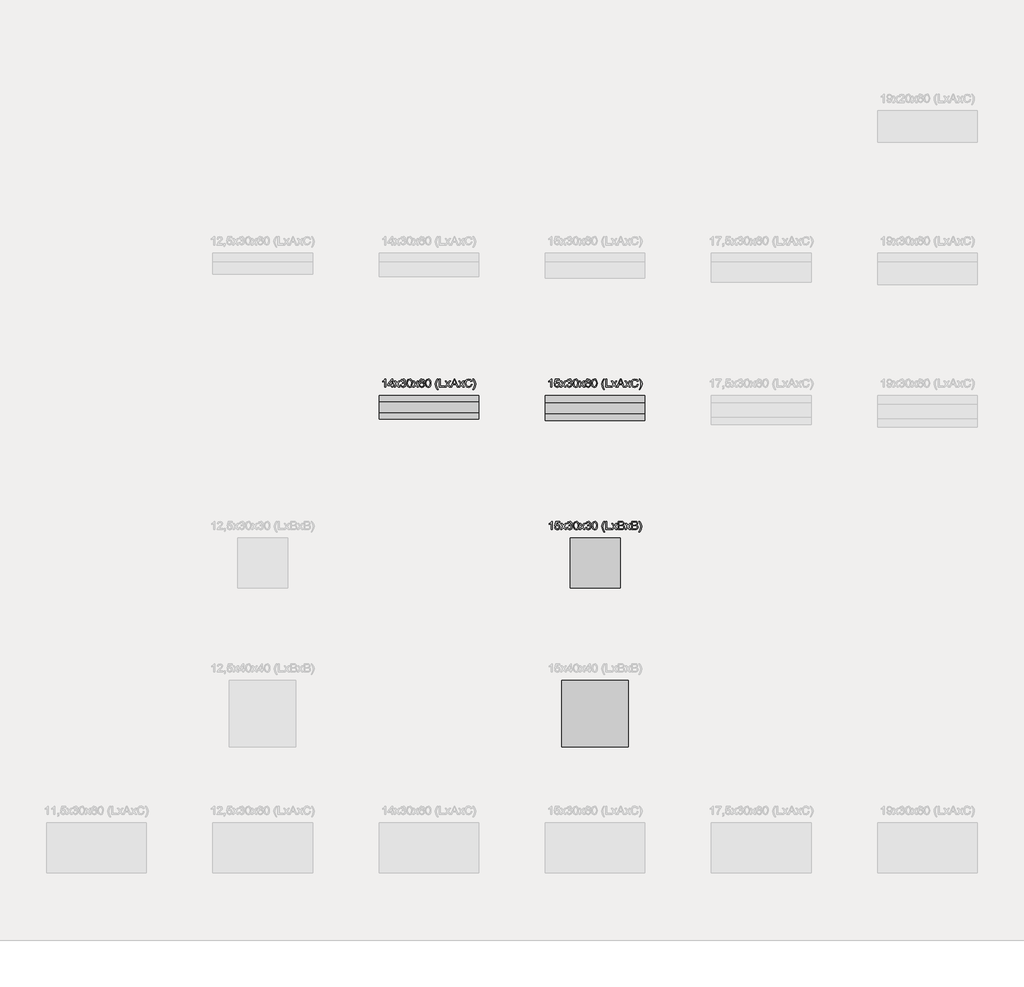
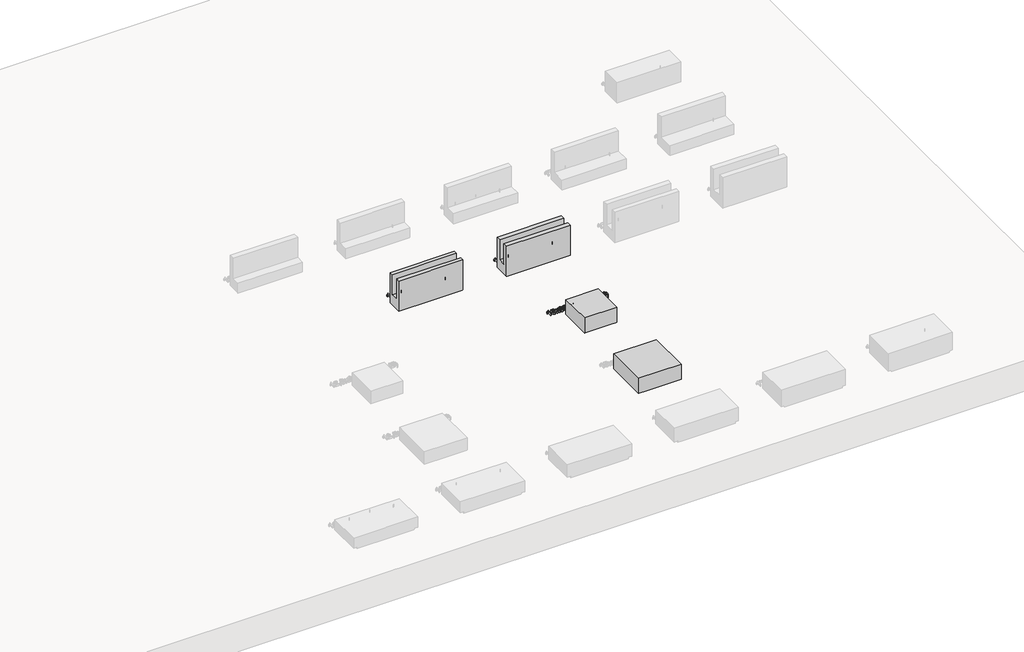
# One storey, part 8 of 26: 7 proxies.
"""IFC4 building model written with IfcOpenShell, lengths in millimetres."""

from ifc_helpers import new_model, si_unit, origin, origin_with_axes, place, context, project, spatial, polyline, outline, extrude, transform, mapped, element, save
from components import generic_models_478de73a, generic_models_cd5d417e, generic_models_a6b36ca9, generic_models_7f6e2def

model = new_model("IFC4")

# Units and contexts
model_context = context("Model", 3, world=origin())
ifc_project = project(units=[si_unit("LENGTHUNIT", "METRE", prefix="MILLI")], contexts=[model_context])

# Site, building, storey
site = spatial("IfcSite", under=ifc_project)
building = spatial("IfcBuilding", under=site)
storey = spatial("IfcBuildingStorey", under=building, Name="Catálogo Celucon", Elevation=0.0)

# Proxies
placement = place(None, origin())
element("IfcBuildingElementProxy", 1, Name="Dimensões", ObjectType="Dimensões", at=placement, inside=storey, context=model_context, shape_type="SweptSolid", body=[
    extrude(outline(polyline([(-7758.0265226, -2028.2474407), (-7764.305042, -2028.2474407), (-7764.305042, -1989.1047965), (-7770.2524676, -1993.3415708), (-7776.8620808, -1996.5114873), (-7776.8620808, -1990.5763244), (-7767.6588995, -1984.7024752), (-7762.0732246, -1978.0192857), (-7758.0265226, -1978.0192857), (-7758.0265226, -2028.2474407)])), origin_with_axes(), (0.0, 0.0, 1.0), 20.0),
    extrude(outline(polyline([(-7722.7098511, -2028.2474407), (-7722.7098511, -2016.4752169), (-7745.4694838, -2016.4752169), (-7745.4694838, -2010.1966975), (-7721.1402212, -1978.8041006), (-7716.4313317, -1978.8041006), (-7716.4313317, -2010.1966975), (-7710.1528123, -2010.1966975), (-7710.1528123, -2016.4752169), (-7716.4313317, -2016.4752169), (-7716.4313317, -2028.2474407), (-7722.7098511, -2028.2474407)]), holes=[polyline([(-7722.7098511, -2010.1966975), (-7722.7098511, -1990.7970536), (-7737.7439619, -2010.1966975), (-7722.7098511, -2010.1966975)])]), origin_with_axes(), (0.0, 0.0, 1.0), 20.0),
    extrude(outline(polyline([(-7707.0135526, -2028.2474407), (-7693.5981225, -2009.7061882), (-7706.2287377, -1991.3611394), (-7698.6748941, -1991.3611394), (-7692.5803157, -2000.1903072), (-7689.7353616, -2004.3596365), (-7687.2705522, -2000.9505967), (-7680.3298452, -1991.3611394), (-7672.7760016, -1991.3611394), (-7686.0442789, -2009.7061882), (-7673.2665109, -2028.2474407), (-7680.8203546, -2028.2474407), (-7688.5090883, -2017.1006163), (-7689.9193026, -2015.0650026), (-7699.459709, -2028.2474407), (-7707.0135526, -2028.2474407)])), origin_with_axes(), (0.0, 0.0, 1.0), 20.0),
    extrude(outline(polyline([(-7669.3424363, -2014.905587), (-7663.0639169, -2014.1207721), (-7659.5996948, -2020.7303853), (-7653.1188403, -2022.7537363), (-7645.4914203, -2019.9700958), (-7642.6587289, -2013.0784398), (-7645.4668948, -2006.5853226), (-7652.6038055, -2004.01628), (-7657.0061267, -2004.7029931), (-7656.3071509, -1998.4244737), (-7648.1769589, -1996.6954283), (-7645.0131737, -1991.1526729), (-7647.3063048, -1986.2414483), (-7653.2169422, -1984.2978051), (-7659.201156, -1986.2598424), (-7662.279102, -1992.1459543), (-7668.5576214, -1991.3611394), (-7663.4195362, -1981.5141646), (-7653.4376714, -1978.0192857), (-7645.8654337, -1979.7421997), (-7640.5679329, -1984.4510892), (-7638.7346543, -1990.7847909), (-7640.4759624, -1996.572801), (-7645.6263104, -2000.7298675), (-7638.7837052, -2005.0218241), (-7636.3802095, -2013.1888044), (-7641.1872009, -2024.421468), (-7653.3395695, -2029.0322557), (-7664.3515039, -2025.0959183), (-7669.3424363, -2014.905587)])), origin_with_axes(), (0.0, 0.0, 1.0), 20.0),
    extrude(outline(polyline([(-7630.8865051, -2003.5380334), (-7629.0409637, -1989.0864024), (-7623.559522, -1980.7538752), (-7614.4053917, -1978.0192857), (-7607.0722773, -1979.6379664), (-7602.0077685, -1984.3039364), (-7599.0647125, -1991.7351527), (-7597.9242783, -2003.5380334), (-7599.7514256, -2017.9283508), (-7605.2144732, -2026.2792721), (-7614.4053917, -2029.0322557), (-7625.8833099, -2024.2497897), (-7629.6357063, -2015.7547813), (-7630.8865051, -2003.5380334)]), holes=[polyline([(-7624.6079857, -2003.5257707), (-7621.6649297, -2019.1178359), (-7614.4053917, -2022.7537363), (-7607.1458537, -2019.1055732), (-7604.2027977, -2003.5257707), (-7607.0477518, -1988.1115151), (-7614.4789681, -1984.2978051), (-7621.5668279, -1987.6577939), (-7624.6079857, -2003.5257707)])]), origin_with_axes(), (0.0, 0.0, 1.0), 20.0),
    extrude(outline(polyline([(-7594.7850186, -2028.2474407), (-7581.3695885, -2009.7061882), (-7594.0002037, -1991.3611394), (-7586.4463601, -1991.3611394), (-7580.3517817, -2000.1903072), (-7577.5068276, -2004.3596365), (-7575.0420182, -2000.9505967), (-7568.1013112, -1991.3611394), (-7560.5474676, -1991.3611394), (-7573.8157449, -2009.7061882), (-7561.0379769, -2028.2474407), (-7568.5918206, -2028.2474407), (-7576.2805543, -2017.1006163), (-7577.6907686, -2015.0650026), (-7587.231175, -2028.2474407), (-7594.7850186, -2028.2474407)])), origin_with_axes(), (0.0, 0.0, 1.0), 20.0),
    extrude(outline(polyline([(-7524.9364905, -1991.3611394), (-7531.2150099, -1992.1459543), (-7533.5939801, -1986.9097672), (-7539.8847622, -1984.2978051), (-7545.5501449, -1985.818384), (-7549.8359702, -1991.5266863), (-7551.6201979, -2002.7164303), (-7546.0835738, -1997.7071038), (-7539.2225746, -1996.0700289), (-7528.5539968, -2000.5459265), (-7524.1516755, -2012.1096839), (-7526.2240775, -2020.7733049), (-7531.9262484, -2026.9046715), (-7540.1545423, -2029.0322557), (-7552.9507044, -2023.3913984), (-7556.661714, -2015.9233939), (-7557.8987172, -2004.8010949), (-7556.5252911, -1992.2961728), (-7552.4050128, -1983.7459821), (-7546.7794839, -1979.4509598), (-7539.4923547, -1978.0192857), (-7529.5718036, -1981.5632156), (-7524.9364905, -1991.3611394)]), holes=[polyline([(-7551.6201979, -2012.011582), (-7550.167064, -2017.4501042), (-7546.304303, -2021.3987043), (-7540.6450517, -2022.7537363), (-7533.2444922, -2019.9455704), (-7530.4301949, -2012.3181504), (-7533.207704, -2005.0156927), (-7540.9025691, -2002.3485483), (-7548.4993323, -2005.0156927), (-7551.6201979, -2012.011582)])]), origin_with_axes(), (0.0, 0.0, 1.0), 20.0),
    extrude(outline(polyline([(-7518.6579711, -2003.5380334), (-7516.8124297, -1989.0864024), (-7511.330988, -1980.7538752), (-7502.1768577, -1978.0192857), (-7494.8437433, -1979.6379664), (-7489.7792345, -1984.3039364), (-7486.8361785, -1991.7351527), (-7485.6957443, -2003.5380334), (-7487.5228916, -2017.9283508), (-7492.9859392, -2026.2792721), (-7502.1768577, -2029.0322557), (-7513.654776, -2024.2497897), (-7517.4071723, -2015.7547813), (-7518.6579711, -2003.5380334)]), holes=[polyline([(-7512.3794517, -2003.5257707), (-7509.4363957, -2019.1178359), (-7502.1768577, -2022.7537363), (-7494.9173197, -2019.1055732), (-7491.9742637, -2003.5257707), (-7494.8192178, -1988.1115151), (-7502.2504341, -1984.2978051), (-7509.3382939, -1987.6577939), (-7512.3794517, -2003.5257707)])]), origin_with_axes(), (0.0, 0.0, 1.0), 20.0),
    extrude(outline(polyline([(-7446.4549982, -2042.3741094), (-7455.3700052, -2027.6465668), (-7459.0120369, -2010.1599093), (-7456.2897102, -1994.8928065), (-7446.4549982, -1978.0192857), (-7441.7461086, -1978.0192857), (-7447.6199578, -1987.9643623), (-7451.151625, -1997.6028705), (-7452.7335176, -2010.1966975), (-7449.9866653, -2026.2915348), (-7441.7461086, -2042.3741094), (-7446.4549982, -2042.3741094)])), origin_with_axes(), (0.0, 0.0, 1.0), 20.0),
    extrude(outline(polyline([(-7434.6827743, -2028.2474407), (-7434.6827743, -1978.0192857), (-7428.4042549, -1978.0192857), (-7428.4042549, -2021.9689214), (-7403.2901774, -2021.9689214), (-7403.2901774, -2028.2474407), (-7434.6827743, -2028.2474407)])), origin_with_axes(), (0.0, 0.0, 1.0), 20.0),
    extrude(outline(polyline([(-7400.9357326, -2028.2474407), (-7387.5203025, -2009.7061882), (-7400.1509177, -1991.3611394), (-7392.5970741, -1991.3611394), (-7386.5024957, -2000.1903072), (-7383.6575416, -2004.3596365), (-7381.1927322, -2000.9505967), (-7374.2520252, -1991.3611394), (-7366.6981816, -1991.3611394), (-7379.9664589, -2009.7061882), (-7367.1886909, -2028.2474407), (-7374.7425346, -2028.2474407), (-7382.4312683, -2017.1006163), (-7383.8414826, -2015.0650026), (-7393.381889, -2028.2474407), (-7400.9357326, -2028.2474407)])), origin_with_axes(), (0.0, 0.0, 1.0), 20.0),
    extrude(outline(polyline([(-7366.7594953, -2028.2474407), (-7346.7099265, -1978.0192857), (-7341.3633749, -1978.0192857), (-7321.3138061, -2028.2474407), (-7327.9479448, -2028.2474407), (-7333.6991666, -2012.5511423), (-7354.3863975, -2012.5511423), (-7360.1253566, -2028.2474407), (-7366.7594953, -2028.2474407)]), holes=[polyline([(-7352.0810037, -2006.2726229), (-7335.9922977, -2006.2726229), (-7340.5172463, -1993.9240506), (-7344.0366507, -1984.2978051), (-7347.1636477, -1992.8449301), (-7352.0810037, -2006.2726229)])]), origin_with_axes(), (0.0, 0.0, 1.0), 20.0),
    extrude(outline(polyline([(-7319.3149806, -2028.2474407), (-7305.8995505, -2009.7061882), (-7318.5301657, -1991.3611394), (-7310.9763221, -1991.3611394), (-7304.8817437, -2000.1903072), (-7302.0367896, -2004.3596365), (-7299.5719802, -2000.9505967), (-7292.6312733, -1991.3611394), (-7285.0774296, -1991.3611394), (-7298.3457069, -2009.7061882), (-7285.5679389, -2028.2474407), (-7293.1217826, -2028.2474407), (-7300.8105163, -2017.1006163), (-7302.2207306, -2015.0650026), (-7311.761137, -2028.2474407), (-7319.3149806, -2028.2474407)])), origin_with_axes(), (0.0, 0.0, 1.0), 20.0),
    extrude(outline(polyline([(-7243.972748, -2010.3929012), (-7237.6942286, -2012.011582), (-7245.1377077, -2024.672854), (-7258.2833576, -2029.0322557), (-7271.3492998, -2025.7335804), (-7279.0135081, -2016.1809113), (-7281.6438643, -2002.7532185), (-7278.6701515, -1989.1047965), (-7270.214997, -1980.2572345), (-7258.1484676, -1977.2344707), (-7245.5730347, -1981.1462826), (-7238.4790436, -1992.158217), (-7244.7575629, -1993.6542705), (-7249.9079109, -1985.9348799), (-7258.3937222, -1983.5129901), (-7268.2161715, -1986.1985287), (-7273.7650583, -1993.4090158), (-7275.3653449, -2002.7409557), (-7273.4707527, -2013.5566864), (-7267.572378, -2020.4667365), (-7258.908757, -2022.7537363), (-7249.3009056, -2019.6390021), (-7243.972748, -2010.3929012)])), origin_with_axes(), (0.0, 0.0, 1.0), 20.0),
    extrude(outline(polyline([(-7228.2764496, -2042.3741094), (-7232.9853391, -2042.3741094), (-7224.7447824, -2026.2915348), (-7221.9979302, -2010.1966975), (-7223.5798228, -1997.7132351), (-7227.0747017, -1988.0624641), (-7232.9853391, -1978.0192857), (-7228.2764496, -1978.0192857), (-7218.4417376, -1994.8928065), (-7215.7194108, -2010.1599093), (-7219.3798366, -2027.6465668), (-7228.2764496, -2042.3741094)])), origin_with_axes(), (0.0, 0.0, 1.0), 20.0),
])
element("IfcBuildingElementProxy", 2, Name="Dimensões", ObjectType="Dimensões", at=placement, inside=storey, context=model_context, shape_type="SweptSolid", body=[
    extrude(outline(polyline([(-6758.0265226, -2028.2474407), (-6764.305042, -2028.2474407), (-6764.305042, -1989.1047965), (-6770.2524676, -1993.3415708), (-6776.8620808, -1996.5114873), (-6776.8620808, -1990.5763244), (-6767.6588995, -1984.7024752), (-6762.0732246, -1978.0192857), (-6758.0265226, -1978.0192857), (-6758.0265226, -2028.2474407)])), origin_with_axes(), (0.0, 0.0, 1.0), 20.0),
    extrude(outline(polyline([(-6743.1150391, -2014.905587), (-6736.8365197, -2014.1207721), (-6733.6727345, -2020.5893639), (-6727.1121723, -2022.7537363), (-6719.2394976, -2019.7432353), (-6716.4313317, -2011.7540646), (-6719.061688, -2004.2983229), (-6727.0140704, -2001.5637334), (-6732.526169, -2002.6551166), (-6736.0517048, -2005.487808), (-6742.3302242, -2004.7029931), (-6736.8365197, -1978.8041006), (-6712.5072571, -1978.8041006), (-6712.5072571, -1985.08262), (-6731.7597482, -1985.08262), (-6734.4452867, -1998.914983), (-6725.2604996, -1995.285214), (-6714.5244767, -1999.785637), (-6710.1528123, -2011.3616572), (-6714.0891497, -2023.0112537), (-6719.7422697, -2027.5270052), (-6727.1366978, -2029.0322557), (-6738.2160772, -2025.1633633), (-6743.1150391, -2014.905587)])), origin_with_axes(), (0.0, 0.0, 1.0), 20.0),
    extrude(outline(polyline([(-6707.0135526, -2028.2474407), (-6693.5981225, -2009.7061882), (-6706.2287377, -1991.3611394), (-6698.6748941, -1991.3611394), (-6692.5803157, -2000.1903072), (-6689.7353616, -2004.3596365), (-6687.2705522, -2000.9505967), (-6680.3298452, -1991.3611394), (-6672.7760016, -1991.3611394), (-6686.0442789, -2009.7061882), (-6673.2665109, -2028.2474407), (-6680.8203546, -2028.2474407), (-6688.5090883, -2017.1006163), (-6689.9193026, -2015.0650026), (-6699.459709, -2028.2474407), (-6707.0135526, -2028.2474407)])), origin_with_axes(), (0.0, 0.0, 1.0), 20.0),
    extrude(outline(polyline([(-6669.3424363, -2014.905587), (-6663.0639169, -2014.1207721), (-6659.5996948, -2020.7303853), (-6653.1188403, -2022.7537363), (-6645.4914203, -2019.9700958), (-6642.6587289, -2013.0784398), (-6645.4668948, -2006.5853226), (-6652.6038055, -2004.01628), (-6657.0061267, -2004.7029931), (-6656.3071509, -1998.4244737), (-6648.1769589, -1996.6954283), (-6645.0131737, -1991.1526729), (-6647.3063048, -1986.2414483), (-6653.2169422, -1984.2978051), (-6659.201156, -1986.2598424), (-6662.279102, -1992.1459543), (-6668.5576214, -1991.3611394), (-6663.4195362, -1981.5141646), (-6653.4376714, -1978.0192857), (-6645.8654337, -1979.7421997), (-6640.5679329, -1984.4510892), (-6638.7346543, -1990.7847909), (-6640.4759624, -1996.572801), (-6645.6263104, -2000.7298675), (-6638.7837052, -2005.0218241), (-6636.3802095, -2013.1888044), (-6641.1872009, -2024.421468), (-6653.3395695, -2029.0322557), (-6664.3515039, -2025.0959183), (-6669.3424363, -2014.905587)])), origin_with_axes(), (0.0, 0.0, 1.0), 20.0),
    extrude(outline(polyline([(-6630.8865051, -2003.5380334), (-6629.0409637, -1989.0864024), (-6623.559522, -1980.7538752), (-6614.4053917, -1978.0192857), (-6607.0722773, -1979.6379664), (-6602.0077685, -1984.3039364), (-6599.0647125, -1991.7351527), (-6597.9242783, -2003.5380334), (-6599.7514256, -2017.9283508), (-6605.2144732, -2026.2792721), (-6614.4053917, -2029.0322557), (-6625.8833099, -2024.2497897), (-6629.6357063, -2015.7547813), (-6630.8865051, -2003.5380334)]), holes=[polyline([(-6624.6079857, -2003.5257707), (-6621.6649297, -2019.1178359), (-6614.4053917, -2022.7537363), (-6607.1458537, -2019.1055732), (-6604.2027977, -2003.5257707), (-6607.0477518, -1988.1115151), (-6614.4789681, -1984.2978051), (-6621.5668279, -1987.6577939), (-6624.6079857, -2003.5257707)])]), origin_with_axes(), (0.0, 0.0, 1.0), 20.0),
    extrude(outline(polyline([(-6594.7850186, -2028.2474407), (-6581.3695885, -2009.7061882), (-6594.0002037, -1991.3611394), (-6586.4463601, -1991.3611394), (-6580.3517817, -2000.1903072), (-6577.5068276, -2004.3596365), (-6575.0420182, -2000.9505967), (-6568.1013112, -1991.3611394), (-6560.5474676, -1991.3611394), (-6573.8157449, -2009.7061882), (-6561.0379769, -2028.2474407), (-6568.5918206, -2028.2474407), (-6576.2805543, -2017.1006163), (-6577.6907686, -2015.0650026), (-6587.231175, -2028.2474407), (-6594.7850186, -2028.2474407)])), origin_with_axes(), (0.0, 0.0, 1.0), 20.0),
    extrude(outline(polyline([(-6524.9364905, -1991.3611394), (-6531.2150099, -1992.1459543), (-6533.5939801, -1986.9097672), (-6539.8847622, -1984.2978051), (-6545.5501449, -1985.818384), (-6549.8359702, -1991.5266863), (-6551.6201979, -2002.7164303), (-6546.0835738, -1997.7071038), (-6539.2225746, -1996.0700289), (-6528.5539968, -2000.5459265), (-6524.1516755, -2012.1096839), (-6526.2240775, -2020.7733049), (-6531.9262484, -2026.9046715), (-6540.1545423, -2029.0322557), (-6552.9507044, -2023.3913984), (-6556.661714, -2015.9233939), (-6557.8987172, -2004.8010949), (-6556.5252911, -1992.2961728), (-6552.4050128, -1983.7459821), (-6546.7794839, -1979.4509598), (-6539.4923547, -1978.0192857), (-6529.5718036, -1981.5632156), (-6524.9364905, -1991.3611394)]), holes=[polyline([(-6551.6201979, -2012.011582), (-6550.167064, -2017.4501042), (-6546.304303, -2021.3987043), (-6540.6450517, -2022.7537363), (-6533.2444922, -2019.9455704), (-6530.4301949, -2012.3181504), (-6533.207704, -2005.0156927), (-6540.9025691, -2002.3485483), (-6548.4993323, -2005.0156927), (-6551.6201979, -2012.011582)])]), origin_with_axes(), (0.0, 0.0, 1.0), 20.0),
    extrude(outline(polyline([(-6518.6579711, -2003.5380334), (-6516.8124297, -1989.0864024), (-6511.330988, -1980.7538752), (-6502.1768577, -1978.0192857), (-6494.8437433, -1979.6379664), (-6489.7792345, -1984.3039364), (-6486.8361785, -1991.7351527), (-6485.6957443, -2003.5380334), (-6487.5228916, -2017.9283508), (-6492.9859392, -2026.2792721), (-6502.1768577, -2029.0322557), (-6513.654776, -2024.2497897), (-6517.4071723, -2015.7547813), (-6518.6579711, -2003.5380334)]), holes=[polyline([(-6512.3794517, -2003.5257707), (-6509.4363957, -2019.1178359), (-6502.1768577, -2022.7537363), (-6494.9173197, -2019.1055732), (-6491.9742637, -2003.5257707), (-6494.8192178, -1988.1115151), (-6502.2504341, -1984.2978051), (-6509.3382939, -1987.6577939), (-6512.3794517, -2003.5257707)])]), origin_with_axes(), (0.0, 0.0, 1.0), 20.0),
    extrude(outline(polyline([(-6446.4549982, -2042.3741094), (-6455.3700052, -2027.6465668), (-6459.0120369, -2010.1599093), (-6456.2897102, -1994.8928065), (-6446.4549982, -1978.0192857), (-6441.7461086, -1978.0192857), (-6447.6199578, -1987.9643623), (-6451.151625, -1997.6028705), (-6452.7335176, -2010.1966975), (-6449.9866653, -2026.2915348), (-6441.7461086, -2042.3741094), (-6446.4549982, -2042.3741094)])), origin_with_axes(), (0.0, 0.0, 1.0), 20.0),
    extrude(outline(polyline([(-6434.6827743, -2028.2474407), (-6434.6827743, -1978.0192857), (-6428.4042549, -1978.0192857), (-6428.4042549, -2021.9689214), (-6403.2901774, -2021.9689214), (-6403.2901774, -2028.2474407), (-6434.6827743, -2028.2474407)])), origin_with_axes(), (0.0, 0.0, 1.0), 20.0),
    extrude(outline(polyline([(-6366.7594953, -2028.2474407), (-6346.7099265, -1978.0192857), (-6341.3633749, -1978.0192857), (-6321.3138061, -2028.2474407), (-6327.9479448, -2028.2474407), (-6333.6991666, -2012.5511423), (-6354.3863975, -2012.5511423), (-6360.1253566, -2028.2474407), (-6366.7594953, -2028.2474407)]), holes=[polyline([(-6352.0810037, -2006.2726229), (-6335.9922977, -2006.2726229), (-6340.5172463, -1993.9240506), (-6344.0366507, -1984.2978051), (-6347.1636477, -1992.8449301), (-6352.0810037, -2006.2726229)])]), origin_with_axes(), (0.0, 0.0, 1.0), 20.0),
    extrude(outline(polyline([(-6400.9357326, -2028.2474407), (-6387.5203025, -2009.7061882), (-6400.1509177, -1991.3611394), (-6392.5970741, -1991.3611394), (-6386.5024957, -2000.1903072), (-6383.6575416, -2004.3596365), (-6381.1927322, -2000.9505967), (-6374.2520252, -1991.3611394), (-6366.6981816, -1991.3611394), (-6379.9664589, -2009.7061882), (-6367.1886909, -2028.2474407), (-6374.7425346, -2028.2474407), (-6382.4312683, -2017.1006163), (-6383.8414826, -2015.0650026), (-6393.381889, -2028.2474407), (-6400.9357326, -2028.2474407)])), origin_with_axes(), (0.0, 0.0, 1.0), 20.0),
    extrude(outline(polyline([(-6319.3149806, -2028.2474407), (-6305.8995505, -2009.7061882), (-6318.5301657, -1991.3611394), (-6310.9763221, -1991.3611394), (-6304.8817437, -2000.1903072), (-6302.0367896, -2004.3596365), (-6299.5719802, -2000.9505967), (-6292.6312733, -1991.3611394), (-6285.0774296, -1991.3611394), (-6298.3457069, -2009.7061882), (-6285.5679389, -2028.2474407), (-6293.1217826, -2028.2474407), (-6300.8105163, -2017.1006163), (-6302.2207306, -2015.0650026), (-6311.761137, -2028.2474407), (-6319.3149806, -2028.2474407)])), origin_with_axes(), (0.0, 0.0, 1.0), 20.0),
    extrude(outline(polyline([(-6243.972748, -2010.3929012), (-6237.6942286, -2012.011582), (-6245.1377077, -2024.672854), (-6258.2833576, -2029.0322557), (-6271.3492998, -2025.7335804), (-6279.0135081, -2016.1809113), (-6281.6438643, -2002.7532185), (-6278.6701515, -1989.1047965), (-6270.214997, -1980.2572345), (-6258.1484676, -1977.2344707), (-6245.5730347, -1981.1462826), (-6238.4790436, -1992.158217), (-6244.7575629, -1993.6542705), (-6249.9079109, -1985.9348799), (-6258.3937222, -1983.5129901), (-6268.2161715, -1986.1985287), (-6273.7650583, -1993.4090158), (-6275.3653449, -2002.7409557), (-6273.4707527, -2013.5566864), (-6267.572378, -2020.4667365), (-6258.908757, -2022.7537363), (-6249.3009056, -2019.6390021), (-6243.972748, -2010.3929012)])), origin_with_axes(), (0.0, 0.0, 1.0), 20.0),
    extrude(outline(polyline([(-6228.2764496, -2042.3741094), (-6232.9853391, -2042.3741094), (-6224.7447824, -2026.2915348), (-6221.9979302, -2010.1966975), (-6223.5798228, -1997.7132351), (-6227.0747017, -1988.0624641), (-6232.9853391, -1978.0192857), (-6228.2764496, -1978.0192857), (-6218.4417376, -1994.8928065), (-6215.7194108, -2010.1599093), (-6219.3798366, -2027.6465668), (-6228.2764496, -2042.3741094)])), origin_with_axes(), (0.0, 0.0, 1.0), 20.0),
])
element("IfcBuildingElementProxy", 3, Name="Dimensões", ObjectType="Dimensões", at=placement, inside=storey, context=model_context, shape_type="SweptSolid", body=[
    extrude(outline(polyline([(-6756.0644853, -2885.3902979), (-6762.3430047, -2885.3902979), (-6762.3430047, -2846.2476536), (-6768.2904303, -2850.4844279), (-6774.9000435, -2853.6543444), (-6774.9000435, -2847.7191816), (-6765.6968622, -2841.8453324), (-6760.1111873, -2835.1621428), (-6756.0644853, -2835.1621428), (-6756.0644853, -2885.3902979)])), origin_with_axes(), (0.0, 0.0, 1.0), 20.0),
    extrude(outline(polyline([(-6741.1530018, -2872.0484442), (-6734.8744824, -2871.2636293), (-6731.7106972, -2877.732221), (-6725.150135, -2879.8965934), (-6717.2774603, -2876.8860924), (-6714.4692944, -2868.8969218), (-6717.0996507, -2861.44118), (-6725.0520331, -2858.7065905), (-6730.5641317, -2859.7979738), (-6734.0896675, -2862.6306651), (-6740.3681868, -2861.8458502), (-6734.8744824, -2835.9469577), (-6710.5452198, -2835.9469577), (-6710.5452198, -2842.2254771), (-6729.7977109, -2842.2254771), (-6732.4832494, -2856.0578401), (-6723.2984623, -2852.4280711), (-6712.5624394, -2856.9284942), (-6708.190775, -2868.5045143), (-6712.1271124, -2880.1541108), (-6717.7802323, -2884.6698623), (-6725.1746604, -2886.1751128), (-6736.2540399, -2882.3062205), (-6741.1530018, -2872.0484442)])), origin_with_axes(), (0.0, 0.0, 1.0), 20.0),
    extrude(outline(polyline([(-6705.0515153, -2885.3902979), (-6691.6360852, -2866.8490453), (-6704.2667004, -2848.5039965), (-6696.7128568, -2848.5039965), (-6690.6182784, -2857.3331644), (-6687.7733243, -2861.5024937), (-6685.3085149, -2858.0934538), (-6678.3678079, -2848.5039965), (-6670.8139643, -2848.5039965), (-6684.0822416, -2866.8490453), (-6671.3044736, -2885.3902979), (-6678.8583173, -2885.3902979), (-6686.547051, -2874.2434734), (-6687.9572653, -2872.2078597), (-6697.4976717, -2885.3902979), (-6705.0515153, -2885.3902979)])), origin_with_axes(), (0.0, 0.0, 1.0), 20.0),
    extrude(outline(polyline([(-6667.380399, -2872.0484442), (-6661.1018796, -2871.2636293), (-6657.6376575, -2877.8732424), (-6651.156803, -2879.8965934), (-6643.529383, -2877.112953), (-6640.6966916, -2870.2212969), (-6643.5048575, -2863.7281797), (-6650.6417682, -2861.1591371), (-6655.0440894, -2861.8458502), (-6654.3451136, -2855.5673308), (-6646.2149215, -2853.8382854), (-6643.0511364, -2848.29553), (-6645.3442675, -2843.3843054), (-6651.2549049, -2841.4406622), (-6657.2391187, -2843.4026995), (-6660.3170647, -2849.2888114), (-6666.5955841, -2848.5039965), (-6661.4574989, -2838.6570218), (-6651.4756341, -2835.1621428), (-6643.9033963, -2836.8850568), (-6638.6058956, -2841.5939464), (-6636.772617, -2847.927648), (-6638.5139251, -2853.7156581), (-6643.664273, -2857.8727246), (-6636.8216679, -2862.1646813), (-6634.4181722, -2870.3316615), (-6639.2251636, -2881.5643251), (-6651.3775322, -2886.1751128), (-6662.3894666, -2882.2387755), (-6667.380399, -2872.0484442)])), origin_with_axes(), (0.0, 0.0, 1.0), 20.0),
    extrude(outline(polyline([(-6628.9244678, -2860.6808905), (-6627.0789264, -2846.2292595), (-6621.5974847, -2837.8967323), (-6612.4433544, -2835.1621428), (-6605.11024, -2836.7808236), (-6600.0457312, -2841.4467936), (-6597.1026752, -2848.8780099), (-6595.962241, -2860.6808905), (-6597.7893883, -2875.0712079), (-6603.2524359, -2883.4221292), (-6612.4433544, -2886.1751128), (-6623.9212726, -2881.3926469), (-6627.673669, -2872.8976385), (-6628.9244678, -2860.6808905)]), holes=[polyline([(-6622.6459484, -2860.6686278), (-6619.7028924, -2876.260693), (-6612.4433544, -2879.8965934), (-6605.1838164, -2876.2484303), (-6602.2407604, -2860.6686278), (-6605.0857145, -2845.2543722), (-6612.5169308, -2841.4406622), (-6619.6047906, -2844.8006511), (-6622.6459484, -2860.6686278)])]), origin_with_axes(), (0.0, 0.0, 1.0), 20.0),
    extrude(outline(polyline([(-6592.8229813, -2885.3902979), (-6579.4075512, -2866.8490453), (-6592.0381664, -2848.5039965), (-6584.4843228, -2848.5039965), (-6578.3897444, -2857.3331644), (-6575.5447903, -2861.5024937), (-6573.0799809, -2858.0934538), (-6566.1392739, -2848.5039965), (-6558.5854303, -2848.5039965), (-6571.8537076, -2866.8490453), (-6559.0759396, -2885.3902979), (-6566.6297833, -2885.3902979), (-6574.318517, -2874.2434734), (-6575.7287313, -2872.2078597), (-6585.2691377, -2885.3902979), (-6592.8229813, -2885.3902979)])), origin_with_axes(), (0.0, 0.0, 1.0), 20.0),
    extrude(outline(polyline([(-6555.151865, -2872.0484442), (-6548.8733456, -2871.2636293), (-6545.4091235, -2877.8732424), (-6538.928269, -2879.8965934), (-6531.300849, -2877.112953), (-6528.4681576, -2870.2212969), (-6531.2763235, -2863.7281797), (-6538.4132342, -2861.1591371), (-6542.8155554, -2861.8458502), (-6542.1165796, -2855.5673308), (-6533.9863876, -2853.8382854), (-6530.8226024, -2848.29553), (-6533.1157335, -2843.3843054), (-6539.0263709, -2841.4406622), (-6545.0105847, -2843.4026995), (-6548.0885307, -2849.2888114), (-6554.3670501, -2848.5039965), (-6549.2289649, -2838.6570218), (-6539.2471001, -2835.1621428), (-6531.6748624, -2836.8850568), (-6526.3773616, -2841.5939464), (-6524.544083, -2847.927648), (-6526.2853911, -2853.7156581), (-6531.4357391, -2857.8727246), (-6524.5931339, -2862.1646813), (-6522.1896382, -2870.3316615), (-6526.9966296, -2881.5643251), (-6539.1489982, -2886.1751128), (-6550.1609326, -2882.2387755), (-6555.151865, -2872.0484442)])), origin_with_axes(), (0.0, 0.0, 1.0), 20.0),
    extrude(outline(polyline([(-6516.6959338, -2860.6808905), (-6514.8503924, -2846.2292595), (-6509.3689507, -2837.8967323), (-6500.2148204, -2835.1621428), (-6492.881706, -2836.7808236), (-6487.8171972, -2841.4467936), (-6484.8741412, -2848.8780099), (-6483.733707, -2860.6808905), (-6485.5608543, -2875.0712079), (-6491.0239019, -2883.4221292), (-6500.2148204, -2886.1751128), (-6511.6927386, -2881.3926469), (-6515.445135, -2872.8976385), (-6516.6959338, -2860.6808905)]), holes=[polyline([(-6510.4174144, -2860.6686278), (-6507.4743584, -2876.260693), (-6500.2148204, -2879.8965934), (-6492.9552824, -2876.2484303), (-6490.0122264, -2860.6686278), (-6492.8571805, -2845.2543722), (-6500.2883968, -2841.4406622), (-6507.3762566, -2844.8006511), (-6510.4174144, -2860.6686278)])]), origin_with_axes(), (0.0, 0.0, 1.0), 20.0),
    extrude(outline(polyline([(-6444.4929609, -2899.5169665), (-6453.4079679, -2884.789424), (-6457.0499996, -2867.3027665), (-6454.3276729, -2852.0356637), (-6444.4929609, -2835.1621428), (-6439.7840713, -2835.1621428), (-6445.6579205, -2845.1072194), (-6449.1895877, -2854.7457277), (-6450.7714802, -2867.3395547), (-6448.024628, -2883.4343919), (-6439.7840713, -2899.5169665), (-6444.4929609, -2899.5169665)])), origin_with_axes(), (0.0, 0.0, 1.0), 20.0),
    extrude(outline(polyline([(-6432.720737, -2885.3902979), (-6432.720737, -2835.1621428), (-6426.4422176, -2835.1621428), (-6426.4422176, -2879.1117785), (-6401.3281401, -2879.1117785), (-6401.3281401, -2885.3902979), (-6432.720737, -2885.3902979)])), origin_with_axes(), (0.0, 0.0, 1.0), 20.0),
    extrude(outline(polyline([(-6398.9736953, -2885.3902979), (-6385.5582652, -2866.8490453), (-6398.1888804, -2848.5039965), (-6390.6350368, -2848.5039965), (-6384.5404584, -2857.3331644), (-6381.6955043, -2861.5024937), (-6379.2306949, -2858.0934538), (-6372.2899879, -2848.5039965), (-6364.7361443, -2848.5039965), (-6378.0044216, -2866.8490453), (-6365.2266536, -2885.3902979), (-6372.7804973, -2885.3902979), (-6380.469231, -2874.2434734), (-6381.8794453, -2872.2078597), (-6391.4198517, -2885.3902979), (-6398.9736953, -2885.3902979)])), origin_with_axes(), (0.0, 0.0, 1.0), 20.0),
    extrude(outline(polyline([(-6358.9481342, -2885.3902979), (-6358.9481342, -2835.1621428), (-6339.7814823, -2835.1621428), (-6330.3943601, -2836.6398022), (-6324.8516047, -2841.1831448), (-6322.8466478, -2847.608817), (-6324.5327736, -2853.4765348), (-6329.6279392, -2857.9217756), (-6323.4413903, -2862.6061396), (-6321.2770179, -2870.4175007), (-6322.7546773, -2877.1681353), (-6326.4151031, -2881.9751267), (-6331.8781508, -2884.5257752), (-6339.9286351, -2885.3902979), (-6358.9481342, -2885.3902979)]), holes=[polyline([(-6352.6696149, -2855.5673308), (-6341.2039593, -2855.5673308), (-6334.508507, -2855.0277705), (-6330.4801992, -2852.7039826), (-6329.1251672, -2848.6143611), (-6330.3882287, -2844.5186082), (-6334.005735, -2842.0967184), (-6342.0746134, -2841.4406622), (-6352.6696149, -2841.4406622), (-6352.6696149, -2855.5673308)]), polyline([(-6352.6696149, -2879.1117785), (-6339.793745, -2879.1117785), (-6335.1339064, -2878.8665238), (-6331.1914377, -2877.4992291), (-6328.5794755, -2874.7094573), (-6327.5555373, -2870.4788143), (-6328.7572852, -2865.5982465), (-6332.650703, -2862.6858474), (-6340.4068817, -2861.8458502), (-6352.6696149, -2861.8458502), (-6352.6696149, -2879.1117785)])]), origin_with_axes(), (0.0, 0.0, 1.0), 20.0),
    extrude(outline(polyline([(-6317.3529433, -2885.3902979), (-6303.9375132, -2866.8490453), (-6316.5681284, -2848.5039965), (-6309.0142848, -2848.5039965), (-6302.9197064, -2857.3331644), (-6300.0747523, -2861.5024937), (-6297.6099429, -2858.0934538), (-6290.6692359, -2848.5039965), (-6283.1153923, -2848.5039965), (-6296.3836696, -2866.8490453), (-6283.6059016, -2885.3902979), (-6291.1597453, -2885.3902979), (-6298.848479, -2874.2434734), (-6300.2586933, -2872.2078597), (-6309.7990997, -2885.3902979), (-6317.3529433, -2885.3902979)])), origin_with_axes(), (0.0, 0.0, 1.0), 20.0),
    extrude(outline(polyline([(-6277.3273823, -2885.3902979), (-6277.3273823, -2835.1621428), (-6258.1607303, -2835.1621428), (-6248.7736081, -2836.6398022), (-6243.2308527, -2841.1831448), (-6241.2258958, -2847.608817), (-6242.9120216, -2853.4765348), (-6248.0071872, -2857.9217756), (-6241.8206384, -2862.6061396), (-6239.6562659, -2870.4175007), (-6241.1339253, -2877.1681353), (-6244.7943511, -2881.9751267), (-6250.2573988, -2884.5257752), (-6258.3078831, -2885.3902979), (-6277.3273823, -2885.3902979)]), holes=[polyline([(-6271.0488629, -2879.1117785), (-6258.172993, -2879.1117785), (-6253.5131544, -2878.8665238), (-6249.5706857, -2877.4992291), (-6246.9587235, -2874.7094573), (-6245.9347853, -2870.4788143), (-6247.1365332, -2865.5982465), (-6251.029951, -2862.6858474), (-6258.7861297, -2861.8458502), (-6271.0488629, -2861.8458502), (-6271.0488629, -2879.1117785)]), polyline([(-6271.0488629, -2855.5673308), (-6259.5832074, -2855.5673308), (-6252.887755, -2855.0277705), (-6248.8594472, -2852.7039826), (-6247.5044152, -2848.6143611), (-6248.7674767, -2844.5186082), (-6252.384983, -2842.0967184), (-6260.4538614, -2841.4406622), (-6271.0488629, -2841.4406622), (-6271.0488629, -2855.5673308)])]), origin_with_axes(), (0.0, 0.0, 1.0), 20.0),
    extrude(outline(polyline([(-6230.2384869, -2899.5169665), (-6234.9473764, -2899.5169665), (-6226.7068197, -2883.4343919), (-6223.9599675, -2867.3395547), (-6225.5418601, -2854.8560923), (-6229.036739, -2845.2053213), (-6234.9473764, -2835.1621428), (-6230.2384869, -2835.1621428), (-6220.4037749, -2852.0356637), (-6217.6814481, -2867.3027665), (-6221.341874, -2884.789424), (-6230.2384869, -2899.5169665)])), origin_with_axes(), (0.0, 0.0, 1.0), 20.0),
])
generic_models_shape = generic_models_478de73a(model_context)
element("IfcBuildingElementProxy", 4, Name="Módulo Laje de Concreto Celular - Celucon : MLCC 15x30x30cm (A x B x B)", ObjectType="Módulo Laje de Concreto Celular - Celucon : MLCC 15x30x30cm (A x B x B)", at=placement, inside=storey, context=model_context, shape_type="MappedRepresentation", body=[
    mapped(generic_models_shape, transform((-6497.8603756, -3085.3902979, 0.0), x_axis=(1.0, 0.0, 0.0), y_axis=(0.0, 1.0, 0.0), z_axis=(0.0, 0.0, 1.0))),
])
generic_models_2_shape = generic_models_cd5d417e(model_context)
element("IfcBuildingElementProxy", 5, Name="Módulo Laje de Concreto Celular - Celucon : MLCC 15x40x40cm (A x B x B)", ObjectType="Módulo Laje de Concreto Celular - Celucon : MLCC 15x40x40cm (A x B x B)", at=placement, inside=storey, context=model_context, shape_type="MappedRepresentation", body=[
    mapped(generic_models_2_shape, transform((-6497.8603756, -3992.533155, 0.0), x_axis=(1.0, 0.0, 0.0), y_axis=(0.0, 1.0, 0.0), z_axis=(0.0, 0.0, 1.0))),
])
generic_models_3_shape = generic_models_a6b36ca9(model_context)
element("IfcBuildingElementProxy", 6, Name="Módulo U de Concreto Celular - Celucon : MUCC 15x30x60cm (L x A x C)", ObjectType="Módulo U de Concreto Celular - Celucon : MUCC 15x30x60cm (L x A x C)", at=placement, inside=storey, context=model_context, shape_type="MappedRepresentation", body=[
    mapped(generic_models_3_shape, transform((-6497.8603756, -2153.2474407, 0.0), x_axis=(1.0, 0.0, 0.0), y_axis=(0.0, 1.0, 0.0), z_axis=(0.0, 0.0, 1.0))),
])
generic_models_4_shape = generic_models_7f6e2def(model_context)
element("IfcBuildingElementProxy", 7, Name="Módulo U de Concreto Celular - Celucon : MUCC 14x30x60cm (L x A x C)", ObjectType="Módulo U de Concreto Celular - Celucon : MUCC 14x30x60cm (L x A x C)", at=placement, inside=storey, context=model_context, shape_type="MappedRepresentation", body=[
    mapped(generic_models_4_shape, transform((-7497.8603756, -2148.2474407, 0.0), x_axis=(1.0, 0.0, 0.0), y_axis=(0.0, 1.0, 0.0), z_axis=(0.0, 0.0, 1.0))),
])

save(model, "model.ifc")
